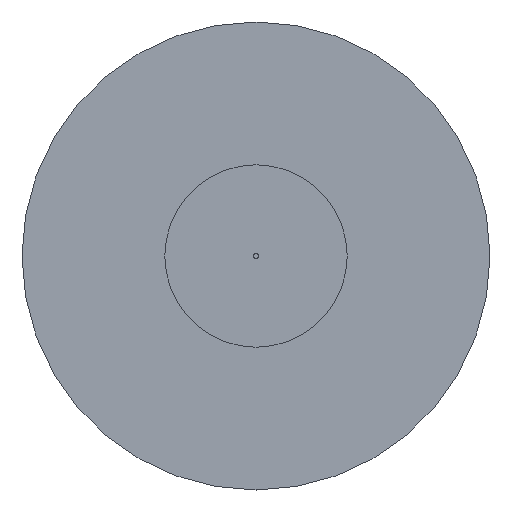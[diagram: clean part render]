
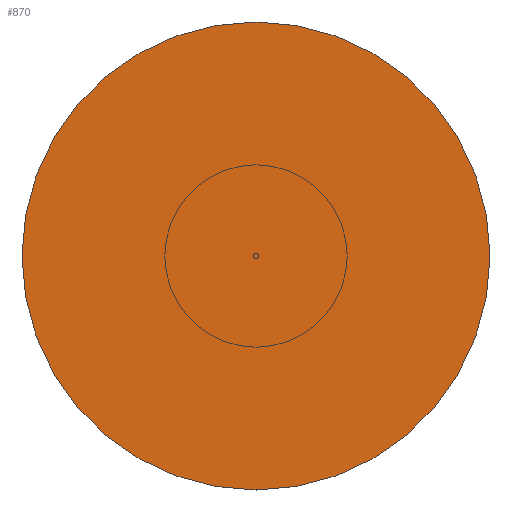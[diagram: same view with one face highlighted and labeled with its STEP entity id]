
A CAD part, top view. The second image highlights one B-rep face of the part: STEP entity #870.
In plain terms, the highlighted planar face has unit normal (0, 0, 1).
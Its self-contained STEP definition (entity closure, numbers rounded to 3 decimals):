
#190=FACE_OUTER_BOUND('',#255,.T.);
#255=EDGE_LOOP('',(#684));
#314=CIRCLE('',#993,250.);
#391=VERTEX_POINT('',#1760);
#493=EDGE_CURVE('',#391,#391,#314,.T.);
#684=ORIENTED_EDGE('',*,*,#493,.F.);
#763=PLANE('',#992);
#870=ADVANCED_FACE('',(#190),#763,.F.);
#992=AXIS2_PLACEMENT_3D('',#1759,#1225,#1226);
#993=AXIS2_PLACEMENT_3D('',#1761,#1227,#1228);
#1225=DIRECTION('center_axis',(0.,0.,
-1.));
#1226=DIRECTION('ref_axis',(1.,0.,0.));
#1227=DIRECTION('center_axis',(0.,0.,
-1.));
#1228=DIRECTION('ref_axis',(1.,0.,0.));
#1759=CARTESIAN_POINT('Origin',(0.,0.,
300.));
#1760=CARTESIAN_POINT('',(-250.,0.,300.));
#1761=CARTESIAN_POINT('Origin',(0.,0.,
300.));
